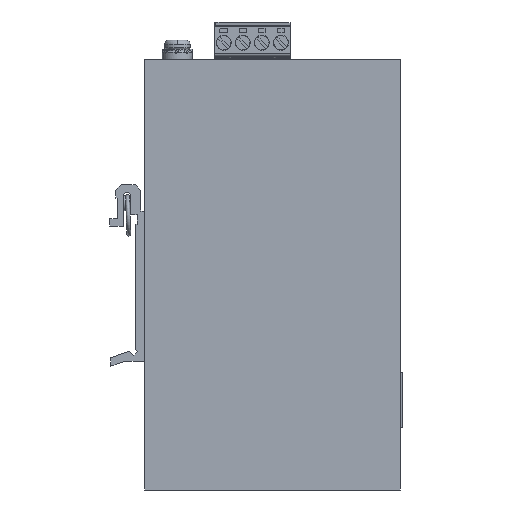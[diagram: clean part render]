
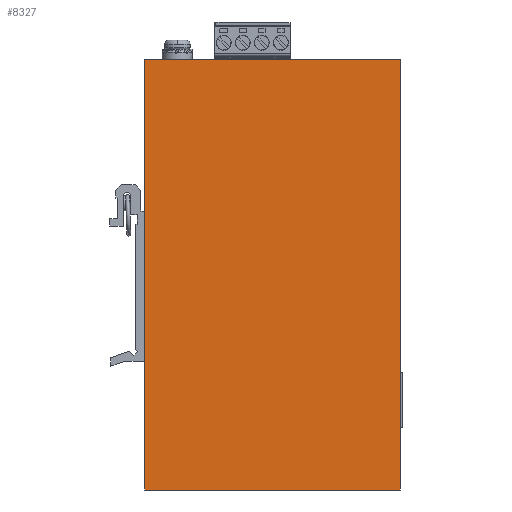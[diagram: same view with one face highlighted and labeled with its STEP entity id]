
A CAD part, left-side view. The second image highlights one B-rep face of the part: STEP entity #8327.
In plain terms, the highlighted planar face has unit normal (-1, 0, 0).
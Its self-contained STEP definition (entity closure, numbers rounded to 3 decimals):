
#687=CARTESIAN_POINT('',(0.,0.,114.5));
#688=VERTEX_POINT('',#687);
#705=CARTESIAN_POINT('',(-0.,68.,114.5));
#706=VERTEX_POINT('',#705);
#713=CARTESIAN_POINT('',(-0.,68.,114.5));
#714=DIRECTION('',(0.,-1.,-0.));
#715=VECTOR('',#714,68.);
#716=LINE('',#713,#715);
#717=EDGE_CURVE('',#706,#688,#716,.T.);
#7277=CARTESIAN_POINT('',(0.,0.,0.));
#7278=VERTEX_POINT('',#7277);
#7285=CARTESIAN_POINT('',(-0.,68.,0.));
#7286=VERTEX_POINT('',#7285);
#7287=CARTESIAN_POINT('',(-0.,68.,-0.));
#7288=DIRECTION('',(0.,-1.,-0.));
#7289=VECTOR('',#7288,68.);
#7290=LINE('',#7287,#7289);
#7291=EDGE_CURVE('',#7286,#7278,#7290,.T.);
#8220=CARTESIAN_POINT('',(0.,0.,0.));
#8221=DIRECTION('',(0.,0.,1.));
#8222=VECTOR('',#8221,114.5);
#8223=LINE('',#8220,#8222);
#8224=EDGE_CURVE('',#7278,#688,#8223,.T.);
#8287=CARTESIAN_POINT('',(-0.,68.,0.));
#8288=DIRECTION('',(0.,0.,1.));
#8289=VECTOR('',#8288,114.5);
#8290=LINE('',#8287,#8289);
#8291=EDGE_CURVE('',#7286,#706,#8290,.T.);
#8316=CARTESIAN_POINT('',(-0.,68.002,0.));
#8317=DIRECTION('',(1.,0.,-0.));
#8318=DIRECTION('',(0.,-1.,-0.));
#8319=AXIS2_PLACEMENT_3D('',#8316,#8317,#8318);
#8320=PLANE('',#8319);
#8321=ORIENTED_EDGE('',*,*,#717,.F.);
#8322=ORIENTED_EDGE('',*,*,#8291,.F.);
#8323=ORIENTED_EDGE('',*,*,#7291,.T.);
#8324=ORIENTED_EDGE('',*,*,#8224,.T.);
#8325=EDGE_LOOP('',(#8321,#8322,#8323,#8324));
#8326=FACE_BOUND('',#8325,.T.);
#8327=ADVANCED_FACE('',(#8326),#8320,.F.);
